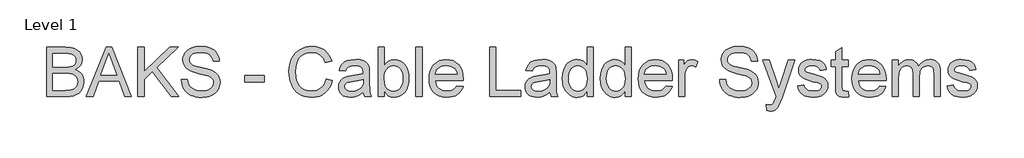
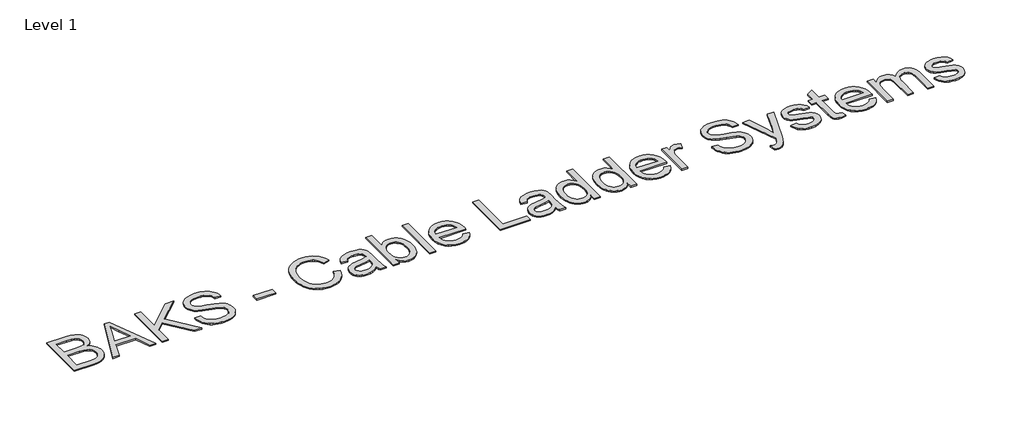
# One storey, part 103 of 106: 1 proxy.
"""IFC4 building model written with IfcOpenShell, lengths in millimetres."""

from ifc_helpers import new_model, si_unit, origin, origin_with_axes, place, context, project, spatial, polyline, outline, extrude, element, save

model = new_model("IFC4")

# Units and contexts
model_context = context("Model", 3, world=origin())
ifc_project = project(units=[si_unit("LENGTHUNIT", "METRE", prefix="MILLI")], contexts=[model_context])

# Site, building, storey
site = spatial("IfcSite", under=ifc_project)
building = spatial("IfcBuilding", under=site)
storey = spatial("IfcBuildingStorey", under=building, Name="Level 1", Elevation=0.0)

# Proxy
placement = place(None, origin())
element("IfcBuildingElementProxy", 1, Name="600mm Arial", ObjectType="600mm Arial", at=placement, inside=storey, context=model_context, shape_type="SweptSolid", body=[
    extrude(outline(polyline([(134935.20999, 74744.9841068), (134935.20999, 75347.7219677), (135165.2098134, 75347.7219677), (135228.4671225, 75343.2889896), (135277.8552803, 75329.9900555), (135297.9324402, 75319.9330815), (135315.7103376, 75307.4940715), (135331.1889726, 75292.6730256), (135344.368345, 75275.4699438), (135362.4129569, 75237.7988275), (135368.4278275, 75198.3618776), (135363.3694501, 75162.0703188), (135348.1943178, 75127.9492637), (135322.792066, 75098.0956398), (135287.0523302, 75074.6063744), (135309.792036, 75064.9126839), (135329.7450357, 75052.3127255), (135346.9113293, 75036.8064994), (135361.2909168, 75018.3940056), (135372.6538719, 74997.636264), (135380.7702685, 74975.0942947), (135385.6401064, 74950.7680978), (135387.2633857, 74924.6576732), (135382.8304076, 74882.6271553), (135369.5314735, 74843.6500579), (135349.6842399, 74810.5038901), (135325.6063633, 74785.966161), (135296.1206214, 74768.1974607), (135260.0497917, 74755.358379), (135216.216652, 74747.5776748), (135163.4439798, 74744.9841068), (134935.20999, 74744.9841068)]), holes=[polyline([(135010.5522226, 75102.8597117), (135148.1400888, 75102.8597117), (135196.2590538, 75104.4783925), (135228.4855166, 75109.3344348), (135256.6100951, 75120.4996533), (135276.8252107, 75137.21989), (135289.0204989, 75159.2376274), (135293.0855949, 75186.2953482), (135289.2964104, 75212.5621226), (135277.9288567, 75235.4443827), (135259.4979688, 75253.3050536), (135234.5187813, 75264.5070604), (135196.1854774, 75270.4115664), (135137.6922401, 75272.3797351), (135010.5522226, 75272.3797351), (135010.5522226, 75102.8597117)]), polyline([(135010.5522226, 74820.3263394), (135165.0626606, 74820.3263394), (135220.9807239, 74823.2693953), (135246.9347986, 74829.7993008), (135268.2903484, 74839.6769323), (135285.6543786, 74853.821995), (135299.6338944, 74873.1541939), (135308.8493384, 74896.8090062), (135311.9211531, 74923.9219092), (135308.3159095, 74955.412608), (135297.5001789, 74982.4887229), (135278.6094384, 75003.6603317), (135250.7791655, 75017.4375124), (135211.3606097, 75024.9974874), (135157.7050207, 75027.5174791), (135010.5522226, 75027.5174791), (135010.5522226, 74820.3263394)])]), origin_with_axes(), (0.0, 0.0, 1.0), 15.0),
    extrude(outline(polyline([(135420.8142236, 74744.9841068), (135661.4090485, 75347.7219677), (135725.5676684, 75347.7219677), (135966.0153405, 74744.9841068), (135886.4056767, 74744.9841068), (135817.5381672, 74933.3396883), (135569.1442441, 74933.3396883), (135500.2767346, 74744.9841068), (135420.8142236, 74744.9841068)]), holes=[polyline([(135596.8089701, 75008.6819209), (135790.020594, 75008.6819209), (135735.5740587, 75156.8647886), (135693.3412057, 75272.3797351), (135655.8172422, 75169.8142348), (135596.8089701, 75008.6819209)])]), origin_with_axes(), (0.0, 0.0, 1.0), 15.0),
    extrude(outline(polyline([(136046.507921, 74744.9841068), (136046.507921, 75347.7219677), (136121.8501536, 75347.7219677), (136121.8501536, 75052.6806075), (136430.8710296, 75347.7219677), (136536.232433, 75347.7219677), (136276.6548972, 75099.9166557), (136545.6502121, 74744.9841068), (136453.5325605, 74744.9841068), (136223.2384315, 75049.0017876), (136121.8501536, 74952.1752464), (136121.8501536, 74744.9841068), (136046.507921, 74744.9841068)])), origin_with_axes(), (0.0, 0.0, 1.0), 15.0),
    extrude(outline(polyline([(136573.9035493, 74952.1752464), (136649.2457819, 74952.1752464), (136657.8910088, 74910.3654577), (136673.5259936, 74876.7594374), (136697.9165699, 74850.0879928), (136732.8285712, 74829.0819309), (136775.5028827, 74815.4519029), (136823.1803893, 74810.9085603), (136865.1557249, 74814.348257), (136901.9071362, 74824.6673469), (136931.6871837, 74841.0013075), (136952.748428, 74862.485616), (136965.2748099, 74887.1521038), (136969.4502705, 74913.0326022), (136966.3232736, 74938.2509129), (136956.9422827, 74960.0479211), (136937.8859953, 74978.644356), (136905.733109, 74994.2609467), (136796.030698, 75023.0293187), (136724.0177975, 75042.067212), (136677.9405776, 75060.1854002), (136640.4350081, 75085.5324697), (136613.855534, 75116.2506163), (136598.0182141, 75151.6776524), (136592.7391075, 75191.1513905), (136594.3715838, 75213.5875937), (136599.2690129, 75235.2788358), (136607.4313947, 75256.2251169), (136618.8587291, 75276.426437), (136633.4222576, 75295.0596601), (136650.9932214, 75311.3016501), (136671.5716205, 75325.1524073), (136695.1574549, 75336.6119314), (136748.1692504, 75352.0077929), (136806.8464287, 75357.1397467), (136870.4164374, 75351.7686696), (136926.0401951, 75335.6554382), (136950.3755891, 75323.6532881), (136971.7311389, 75309.1311464), (136990.1068446, 75292.0890129), (137005.5027061, 75272.5268878), (137017.7991617, 75251.0149882), (137026.87665, 75228.123531), (137032.7351708, 75203.8525164), (137035.3747241, 75178.2019443), (136960.0324915, 75178.2019443), (136954.9925081, 75202.2430327), (136946.2001284, 75223.1571241), (136933.6553524, 75240.9442186), (136917.35818, 75255.6043161), (136897.0051086, 75267.0638402), (136872.2926356, 75275.2492146), (136843.2207609, 75280.1604392), (136809.7894846, 75281.7975141), (136775.2913505, 75280.1788333), (136745.8148057, 75275.322791), (136721.35985, 75267.2293871), (136701.9264836, 75255.8986217), (136687.1192333, 75242.2777908), (136676.542626, 75227.3141906), (136670.1966616, 75211.0078212), (136668.0813401, 75193.3586825), (136669.5804592, 75178.1743531), (136674.0778166, 75164.4063695), (136681.5734123, 75152.0547315), (136692.0672462, 75141.1194392), (136708.5851478, 75130.763561), (136734.5944048, 75120.2973182), (136815.0869854, 75099.0337389), (136898.1547399, 75078.8370174), (136948.4074204, 75061.2154698), (136991.3576433, 75033.8818376), (137007.9629169, 75017.8145914), (137021.3216319, 75000.1470586), (137031.590138, 74980.9712096), (137038.9247853, 74960.3790149), (137044.7925031, 74914.9455885), (137043.1048445, 74891.3781482), (137038.0418685, 74868.5004866), (137029.6035753, 74846.3126038), (137017.7899647, 74824.8144997), (137002.8079704, 74804.8385074), (136984.8645261, 74787.2169598), (136963.9596318, 74771.949857), (136940.0932873, 74759.037199), (136913.9598701, 74748.7686928), (136886.2537573, 74741.4340455), (136826.1234452, 74735.5663277), (136787.5832077, 74737.1482203), (136752.3079229, 74741.893898), (136720.2975908, 74749.8033609), (136691.5522114, 74760.876609), (136665.8970407, 74775.1320363), (136643.1573349, 74792.5880369), (136623.3330939, 74813.244611), (136606.4243177, 74837.1017584), (136592.8034868, 74863.3869269), (136582.8430818, 74891.3275644), (136576.5431026, 74920.923671), (136573.9035493, 74952.1752464)])), origin_with_axes(), (0.0, 0.0, 1.0), 15.0),
    extrude(outline(polyline([(137346.1614336, 74923.9219092), (137346.1614336, 74999.2641418), (137581.6059105, 74999.2641418), (137581.6059105, 74923.9219092), (137346.1614336, 74923.9219092)])), origin_with_axes(), (0.0, 0.0, 1.0), 15.0),
    extrude(outline(polyline([(138335.0282366, 74959.2385808), (138410.3704692, 74939.8144114), (138395.4620514, 74892.9600408), (138375.6056207, 74852.0193733), (138350.8011772, 74816.9924088), (138321.0487208, 74787.8791474), (138287.0196363, 74764.9922888), (138249.3853082, 74748.6445326), (138208.1457365, 74738.8358789), (138163.3009213, 74735.5663277), (138117.3570586, 74738.0403341), (138075.9105533, 74745.4623534), (138038.9614054, 74757.8323854), (138006.5096149, 74775.1504304), (137978.1091249, 74797.1589707), (137953.3138784, 74823.6004891), (137932.1238755, 74854.4749856), (137914.5391161, 74889.7824601), (137900.7297457, 74927.9962023), (137890.8659098, 74967.589502), (137884.9476082, 75008.5623593), (137882.974841, 75050.914774), (137885.2051256, 75096.3573974), (137891.8959793, 75138.8017826), (137903.0474023, 75178.2479295), (137918.6593945, 75214.6958382), (137938.382468, 75247.5431019), (137961.8671348, 75276.1873137), (137989.1133951, 75300.6284738), (138020.1212488, 75320.866582), (138053.8376336, 75336.7360916), (138089.2094875, 75348.0714556), (138126.2368103, 75354.8726739), (138164.9196021, 75357.1397467), (138208.0123793, 75354.2058878), (138247.5275041, 75345.4043111), (138283.4649765, 75330.7350165), (138315.8247965, 75310.1980042), (138344.0735352, 75284.3358999), (138367.6777637, 75253.6913297), (138386.637482, 75218.2642936), (138400.9526902, 75178.0547915), (138325.6104576, 75160.1021501), (138313.7462632, 75189.7304463), (138299.4908359, 75215.0453261), (138282.8441756, 75236.0467895), (138263.8062824, 75252.7348365), (138242.2667915, 75265.449758), (138218.1153386, 75274.5318447), (138191.3519234, 75279.9810968), (138161.9765461, 75281.7975141), (138128.1773878, 75279.7833602), (138097.2661031, 75273.7408984), (138069.2426922, 75263.6701288), (138044.1071548, 75249.5710513), (138022.1767894, 75232.0782625), (138003.7688941, 75211.8263586), (137988.8834688, 75188.8153398), (137977.5205137, 75163.0452061), (137963.1179336, 75107.899695), (137958.3170736, 75051.0619268), (137964.0008504, 74981.4586533), (137971.1055714, 74950.1886837), (137981.0521809, 74921.2731589), (137994.0016271, 74895.2868944), (138010.1148585, 74872.804706), (138029.391875, 74853.8265936), (138051.8326767, 74838.3525571), (138076.3474132, 74826.3458085), (138101.846234, 74817.7695595), (138128.3291391, 74812.6238101), (138155.7961286, 74810.9085603), (138188.5514217, 74813.244611), (138218.6855557, 74820.252763), (138246.1985304, 74831.9330163), (138271.0903459, 74848.285371), (138292.772391, 74869.2362506), (138310.6560544, 74894.7120788), (138324.7413363, 74924.7128555), (138335.0282366, 74959.2385808)])), origin_with_axes(), (0.0, 0.0, 1.0), 15.0),
    extrude(outline(polyline([(138787.0816323, 74801.4907812), (138751.0843791, 74770.6254818), (138714.0202681, 74750.4287603), (138675.0431707, 74739.2819358), (138633.3069583, 74735.5663277), (138599.7607189, 74737.8012108), (138570.3439548, 74744.5058602), (138545.0566662, 74755.6802758), (138523.898853, 74771.3244576), (138507.1924118, 74790.4451243), (138495.2592396, 74812.0489945), (138488.0993363, 74836.1360681), (138485.7127019, 74862.7063452), (138489.3179454, 74893.9395266), (138500.1336761, 74922.3032284), (138516.8171245, 74946.5834401), (138538.0255216, 74965.5661511), (138562.9495267, 74979.9135489), (138590.7797997, 74990.2878211), (138655.9684892, 75001.6185866), (138733.002979, 75013.5379632), (138786.6401739, 75027.5174791), (138787.0816323, 75044.292898), (138781.8944962, 75077.9173124), (138775.410576, 75090.3701179), (138766.3330878, 75099.9166557), (138750.6429207, 75109.4447994), (138731.531451, 75116.2506163), (138683.0446041, 75121.6952698), (138638.1630007, 75118.0716322), (138606.8194547, 75107.2007192), (138585.4455107, 75087.0959682), (138570.4727135, 75055.7708163), (138495.1304809, 75065.1885954), (138508.2086859, 75106.3913788), (138527.7248257, 75138.7649944), (138555.4999163, 75163.5234527), (138593.3549736, 75181.8807642), (138639.6529227, 75193.2483179), (138692.7566887, 75197.0375024), (138743.689951, 75193.6897763), (138784.0649999, 75183.6465978), (138814.507235, 75168.5450419), (138835.6420557, 75150.0221835), (138849.6583597, 75127.1215293), (138858.745045, 75098.8865861), (138862.4238649, 75032.9621326), (138862.4238649, 74939.2258002), (138866.2498377, 74808.3333863), (138871.9152204, 74775.9781649), (138881.2594231, 74744.9841068), (138805.9171905, 74744.9841068), (138793.850661, 74771.1773048), (138787.0816323, 74801.4907812)]), holes=[polyline([(138787.0816323, 74952.1752464), (138736.4610698, 74939.6304704), (138665.5334211, 74929.0722572), (138600.7126135, 74916.8585749), (138583.8452241, 74908.5076536), (138571.3556303, 74896.9929472), (138563.6301084, 74883.1973724), (138561.0549345, 74868.003846), (138566.6651349, 74845.5998324), (138583.4957362, 74827.2425209), (138611.1788563, 74814.9920504), (138649.3466133, 74810.9085603), (138689.8136328, 74815.4151147), (138725.5717627, 74828.9347781), (138754.5608639, 74848.8555881), (138774.7207973, 74872.5655827), (138783.6603297, 74896.9929472), (138786.6401739, 74930.8380907), (138787.0816323, 74952.1752464)])]), origin_with_axes(), (0.0, 0.0, 1.0), 15.0),
    extrude(outline(polyline([(139041.3616674, 74744.9841068), (138966.0194348, 74744.9841068), (138966.0194348, 75347.7219677), (139041.3616674, 75347.7219677), (139041.3616674, 75124.1968674), (139066.1385197, 75156.0646452), (139094.1159455, 75178.8273437), (139125.2939446, 75192.4849627), (139159.672517, 75197.0375024), (139198.4840675, 75192.9356182), (139235.1619024, 75180.6299655), (139267.6090944, 75160.8930964), (139293.7287161, 75134.4975633), (139314.2013491, 75101.7008834), (139329.7075752, 75062.7605742), (139339.4748422, 75019.2953165), (139342.7305978, 74972.923791), (139339.359879, 74919.4153548), (139329.2477227, 74872.3448535), (139312.3941288, 74831.7122871), (139288.7990973, 74797.5176557), (139260.4767822, 74770.4139497), (139229.4413374, 74751.0541597), (139195.6927629, 74739.4382857), (139159.2310586, 74735.5663277), (139123.721249, 74740.5603258), (139092.2397473, 74755.54232), (139064.7865534, 74780.5123104), (139041.3616674, 74815.470297), (139041.3616674, 74744.9841068)]), holes=[polyline([(139041.3616674, 74969.3921238), (139046.5120153, 74906.557879), (139052.9499502, 74882.755914), (139061.9630591, 74864.0307204), (139080.2192031, 74840.7897754), (139101.4367972, 74824.1891003), (139125.6158413, 74814.2286953), (139152.7563355, 74810.9085603), (139175.2891077, 74813.3549756), (139196.2399873, 74820.6942214), (139215.6089744, 74832.9262977), (139233.3960689, 74850.0512046), (139248.2676985, 74872.0229567), (139258.8902911, 74898.7955689), (139265.2638467, 74930.3690412), (139267.3883652, 74966.7433735), (139265.3512187, 75003.8074845), (139259.239779, 75035.6844594), (139249.0540463, 75062.3742981), (139234.7940204, 75083.8770007), (139217.6461209, 75100.4224935), (139198.7967672, 75112.2407026), (139178.2459592, 75119.331628), (139155.9936971, 75121.6952698), (139133.4609249, 75119.2488546), (139112.5100452, 75111.9096088), (139093.1410582, 75099.6775324), (139075.3539637, 75082.5526255), (139060.4823341, 75060.8016026), (139049.8597415, 75034.691178), (139043.4861859, 75004.2213517), (139041.3616674, 74969.3921238)])]), origin_with_axes(), (0.0, 0.0, 1.0), 15.0),
    extrude(outline(polyline([(139427.4906095, 74744.9841068), (139427.4906095, 75347.7219677), (139502.8328421, 75347.7219677), (139502.8328421, 74744.9841068), (139427.4906095, 74744.9841068)])), origin_with_axes(), (0.0, 0.0, 1.0), 15.0),
    extrude(outline(polyline([(139925.7499838, 74876.8330138), (139999.6206884, 74867.4152348), (139988.2945215, 74837.8283253), (139973.0044261, 74811.7546889), (139953.7504021, 74789.1943255), (139930.5324497, 74770.1472352), (139903.5896921, 74755.0180882), (139873.1612526, 74744.2115546), (139839.2471311, 74737.7276344), (139801.8473278, 74735.5663277), (139755.0987233, 74739.2957314), (139713.4452844, 74750.4839426), (139676.8870111, 74769.1309612), (139645.4239034, 74795.2367873), (139620.1228192, 74828.0748539), (139602.0506162, 74866.9185941), (139591.2072944, 74911.7680078), (139587.5928538, 74962.6230951), (139591.2440826, 75015.2026293), (139602.197769, 75061.5465636), (139620.453913, 75101.6548981), (139646.0125146, 75135.5276328), (139677.3928488, 75162.4382008), (139713.1141906, 75181.660035), (139753.1765398, 75193.1931356), (139797.5798967, 75197.0375024), (139840.5531122, 75193.2023326), (139879.4152465, 75181.6968232), (139914.1662995, 75162.5209742), (139944.8062711, 75135.6747856), (139969.8176483, 75101.8756273), (139987.6829177, 75061.8408692), (139998.4020793, 75015.5705113), (140001.9751332, 74963.0645535), (140001.5336748, 74942.7574674), (139662.9350864, 74942.7574674), (139667.2990866, 74912.6923113), (139675.9765031, 74886.3611575), (139688.9673361, 74863.764006), (139706.2715855, 74844.9008567), (139726.932758, 74830.029227), (139749.9943606, 74819.4066344), (139775.4563932, 74813.0330788), (139803.3188558, 74810.9085603), (139843.4179933, 74814.8448976), (139877.1895604, 74826.6539097), (139904.6335573, 74847.0713604), (139925.7499838, 74876.8330138)]), holes=[polyline([(139662.9350864, 75018.0997), (139926.6329006, 75018.0997), (139916.4425693, 75057.9045319), (139907.6777808, 75073.5579108), (139896.466577, 75086.3785983), (139875.9203675, 75101.8296421), (139852.5414667, 75112.8661019), (139826.3298746, 75119.4879779), (139797.2855911, 75121.6952698), (139770.7934889, 75119.9340348), (139746.4994816, 75114.6503296), (139724.4035693, 75105.8441544), (139704.5057519, 75093.515509), (139687.8085078, 75078.2346106), (139675.3143156, 75060.5716763), (139667.0231751, 75040.5267061), (139662.9350864, 75018.0997)])]), origin_with_axes(), (0.0, 0.0, 1.0), 15.0),
    extrude(outline(polyline([(140322.1796218, 74744.9841068), (140322.1796218, 75347.7219677), (140397.5218544, 75347.7219677), (140397.5218544, 74820.3263394), (140698.8907848, 74820.3263394), (140698.8907848, 74744.9841068), (140322.1796218, 74744.9841068)])), origin_with_axes(), (0.0, 0.0, 1.0), 15.0),
    extrude(outline(polyline([(141056.7663897, 74801.4907812), (141020.7691365, 74770.6254818), (140983.7050255, 74750.4287603), (140944.7279281, 74739.2819358), (140902.9917158, 74735.5663277), (140869.4454763, 74737.8012108), (140840.0287123, 74744.5058602), (140814.7414236, 74755.6802758), (140793.5836104, 74771.3244576), (140776.8771693, 74790.4451243), (140764.9439971, 74812.0489945), (140757.7840937, 74836.1360681), (140755.3974593, 74862.7063452), (140759.0027028, 74893.9395266), (140769.8184335, 74922.3032284), (140786.501882, 74946.5834401), (140807.710279, 74965.5661511), (140832.6342842, 74979.9135489), (140860.4645571, 74990.2878211), (140925.6532467, 75001.6185866), (141002.6877365, 75013.5379632), (141056.3249314, 75027.5174791), (141056.7663897, 75044.292898), (141051.5792536, 75077.9173124), (141045.0953334, 75090.3701179), (141036.0178452, 75099.9166557), (141020.3276781, 75109.4447994), (141001.2162085, 75116.2506163), (140952.7293615, 75121.6952698), (140907.8477581, 75118.0716322), (140876.5042121, 75107.2007192), (140855.1302682, 75087.0959682), (140840.157471, 75055.7708163), (140764.8152384, 75065.1885954), (140777.8934433, 75106.3913788), (140797.4095831, 75138.7649944), (140825.1846738, 75163.5234527), (140863.0397311, 75181.8807642), (140909.3376802, 75193.2483179), (140962.4414462, 75197.0375024), (141013.3747084, 75193.6897763), (141053.7497574, 75183.6465978), (141084.1919925, 75168.5450419), (141105.3268131, 75150.0221835), (141119.3431171, 75127.1215293), (141128.4298024, 75098.8865861), (141132.1086224, 75032.9621326), (141132.1086224, 74939.2258002), (141135.9345951, 74808.3333863), (141141.5999778, 74775.9781649), (141150.9441805, 74744.9841068), (141075.6019479, 74744.9841068), (141063.5354185, 74771.1773048), (141056.7663897, 74801.4907812)]), holes=[polyline([(141056.7663897, 74952.1752464), (141006.1458272, 74939.6304704), (140935.2181785, 74929.0722572), (140870.397371, 74916.8585749), (140853.5299815, 74908.5076536), (140841.0403878, 74896.9929472), (140833.3148659, 74883.1973724), (140830.7396919, 74868.003846), (140836.3498923, 74845.5998324), (140853.1804936, 74827.2425209), (140880.8636138, 74814.9920504), (140919.0313708, 74810.9085603), (140959.4983902, 74815.4151147), (140995.2565202, 74828.9347781), (141024.2456214, 74848.8555881), (141044.4055547, 74872.5655827), (141053.3450872, 74896.9929472), (141056.3249314, 74930.8380907), (141056.7663897, 74952.1752464)])]), origin_with_axes(), (0.0, 0.0, 1.0), 15.0),
    extrude(outline(polyline([(141508.8197854, 74744.9841068), (141508.8197854, 74816.0589082), (141486.2778162, 74780.8434042), (141458.9717751, 74755.6894728), (141426.9016621, 74740.597114), (141390.0674774, 74735.5663277), (141365.1986545, 74737.3873436), (141341.3599012, 74742.8503912), (141318.5512175, 74751.9554706), (141296.7726034, 74764.7025817), (141276.7046406, 74780.710047), (141259.0279107, 74799.5961889), (141243.7424138, 74821.3610075), (141230.8481499, 74846.0045026), (141220.6118333, 74873.0576249), (141213.3001787, 74902.0513246), (141207.450855, 74965.8604567), (141212.8403262, 75028.8786424), (141229.0087399, 75085.7899871), (141241.1304516, 75111.1462536), (141255.9377019, 75133.3571291), (141273.4304908, 75152.4226135), (141293.6088182, 75168.3427068), (141315.7599129, 75180.8966799), (141339.1710033, 75189.8638035), (141363.8420896, 75195.2440777), (141389.7731718, 75197.0375024), (141426.6349477, 75191.9055486), (141459.2292925, 75176.5096871), (141486.8572303, 75152.9100571), (141508.8197854, 75123.1667978), (141508.8197854, 75347.7219677), (141584.162018, 75347.7219677), (141584.162018, 74744.9841068), (141508.8197854, 74744.9841068)]), holes=[polyline([(141282.7930876, 74966.1547623), (141284.9176061, 74929.6194816), (141291.2911617, 74898.0046227), (141301.9137543, 74871.3101854), (141316.7853839, 74849.5361698), (141334.5448873, 74832.6365906), (141353.8311009, 74820.5654627), (141374.6440247, 74813.3227859), (141396.9836589, 74810.9085603), (141419.4290591, 74813.2124213), (141440.1178228, 74820.1240043), (141459.04995, 74831.6433093), (141476.2254406, 74847.7703362), (141490.4854665, 74868.6338439), (141500.6711992, 74894.3625909), (141506.7826389, 74924.9565773), (141508.8197854, 74960.4158031), (141506.7458507, 74999.291733), (141500.5240464, 75032.6310388), (141490.1543727, 75060.4337206), (141475.6368295, 75082.6997783), (141458.0842598, 75099.7603059), (141438.6095066, 75111.946397), (141417.2125701, 75119.2580516), (141393.8934501, 75121.6952698), (141371.1123576, 75119.3546206), (141350.2994337, 75112.332673), (141331.4546785, 75100.6294271), (141314.578092, 75084.2448827), (141300.6721525, 75062.820355), (141290.7393387, 75035.997159), (141284.7796504, 75003.7752948), (141282.7930876, 74966.1547623)])]), origin_with_axes(), (0.0, 0.0, 1.0), 15.0),
    extrude(outline(polyline([(141970.2909602, 74744.9841068), (141970.2909602, 74816.0589082), (141947.7489909, 74780.8434042), (141920.4429498, 74755.6894728), (141888.3728369, 74740.597114), (141851.5386521, 74735.5663277), (141826.6698293, 74737.3873436), (141802.831076, 74742.8503912), (141780.0223923, 74751.9554706), (141758.2437781, 74764.7025817), (141738.1758153, 74780.710047), (141720.4990854, 74799.5961889), (141705.2135885, 74821.3610075), (141692.3193246, 74846.0045026), (141682.0830081, 74873.0576249), (141674.7713534, 74902.0513246), (141668.9220297, 74965.8604567), (141674.3115009, 75028.8786424), (141690.4799146, 75085.7899871), (141702.6016264, 75111.1462536), (141717.4088767, 75133.3571291), (141734.9016656, 75152.4226135), (141755.079993, 75168.3427068), (141777.2310876, 75180.8966799), (141800.6421781, 75189.8638035), (141825.3132644, 75195.2440777), (141851.2443465, 75197.0375024), (141888.1061224, 75191.9055486), (141920.7004672, 75176.5096871), (141948.3284051, 75152.9100571), (141970.2909602, 75123.1667978), (141970.2909602, 75347.7219677), (142045.6331928, 75347.7219677), (142045.6331928, 74744.9841068), (141970.2909602, 74744.9841068)]), holes=[polyline([(141744.2642623, 74966.1547623), (141746.3887809, 74929.6194816), (141752.7623364, 74898.0046227), (141763.384929, 74871.3101854), (141778.2565587, 74849.5361698), (141796.016062, 74832.6365906), (141815.3022756, 74820.5654627), (141836.1151995, 74813.3227859), (141858.4548336, 74810.9085603), (141880.9002339, 74813.2124213), (141901.5889976, 74820.1240043), (141920.5211247, 74831.6433093), (141937.6966154, 74847.7703362), (141951.9566412, 74868.6338439), (141962.142374, 74894.3625909), (141968.2538136, 74924.9565773), (141970.2909602, 74960.4158031), (141968.2170254, 74999.291733), (141961.9952212, 75032.6310388), (141951.6255474, 75060.4337206), (141937.1080042, 75082.6997783), (141919.5554345, 75099.7603059), (141900.0806814, 75111.946397), (141878.6837448, 75119.2580516), (141855.3646249, 75121.6952698), (141832.5835323, 75119.3546206), (141811.7706084, 75112.332673), (141792.9258532, 75100.6294271), (141776.0492667, 75084.2448827), (141762.1433273, 75062.820355), (141752.2105134, 75035.997159), (141746.2508251, 75003.7752948), (141744.2642623, 74966.1547623)])]), origin_with_axes(), (0.0, 0.0, 1.0), 15.0),
    extrude(outline(polyline([(142468.5503344, 74876.8330138), (142542.4210391, 74867.4152348), (142531.0948721, 74837.8283253), (142515.8047767, 74811.7546889), (142496.5507528, 74789.1943255), (142473.3328004, 74770.1472352), (142446.3900428, 74755.0180882), (142415.9616032, 74744.2115546), (142382.0474818, 74737.7276344), (142344.6476785, 74735.5663277), (142297.8990739, 74739.2957314), (142256.245635, 74750.4839426), (142219.6873617, 74769.1309612), (142188.2242541, 74795.2367873), (142162.9231699, 74828.0748539), (142144.8509669, 74866.9185941), (142134.0076451, 74911.7680078), (142130.3932045, 74962.6230951), (142134.0444333, 75015.2026293), (142144.9981197, 75061.5465636), (142163.2542637, 75101.6548981), (142188.8128653, 75135.5276328), (142220.1931995, 75162.4382008), (142255.9145412, 75181.660035), (142295.9768905, 75193.1931356), (142340.3802473, 75197.0375024), (142383.3534629, 75193.2023326), (142422.2155971, 75181.6968232), (142456.9666501, 75162.5209742), (142487.6066218, 75135.6747856), (142512.6179989, 75101.8756273), (142530.4832683, 75061.8408692), (142541.20243, 75015.5705113), (142544.7754838, 74963.0645535), (142544.3340254, 74942.7574674), (142205.7354371, 74942.7574674), (142210.0994372, 74912.6923113), (142218.7768538, 74886.3611575), (142231.7676868, 74863.764006), (142249.0719361, 74844.9008567), (142269.7331087, 74830.029227), (142292.7947112, 74819.4066344), (142318.2567438, 74813.0330788), (142346.1192064, 74810.9085603), (142386.2183439, 74814.8448976), (142419.9899111, 74826.6539097), (142447.4339079, 74847.0713604), (142468.5503344, 74876.8330138)]), holes=[polyline([(142205.7354371, 75018.0997), (142469.4332512, 75018.0997), (142459.24292, 75057.9045319), (142450.4781314, 75073.5579108), (142439.2669276, 75086.3785983), (142418.7207182, 75101.8296421), (142395.3418174, 75112.8661019), (142369.1302252, 75119.4879779), (142340.0859417, 75121.6952698), (142313.5938395, 75119.9340348), (142289.2998323, 75114.6503296), (142267.20392, 75105.8441544), (142247.3061025, 75093.515509), (142230.6088585, 75078.2346106), (142218.1146662, 75060.5716763), (142209.8235258, 75040.5267061), (142205.7354371, 75018.0997)])]), origin_with_axes(), (0.0, 0.0, 1.0), 15.0),
    extrude(outline(polyline([(142620.1177164, 74744.9841068), (142620.1177164, 75187.6197234), (142686.04217, 75187.6197234), (142686.04217, 75122.1367282), (142710.3959581, 75160.1021501), (142732.8367598, 75182.4693754), (142755.3511379, 75193.3954707), (142779.9256552, 75197.0375024), (142817.4496187, 75191.2249669), (142855.5621934, 75173.7873603), (142830.3990649, 75106.244226), (142803.9115612, 75117.8325089), (142777.4240576, 75121.6952698), (142754.9280736, 75117.9796617), (142734.8233225, 75106.8328372), (142718.5813325, 75089.1009251), (142707.6736313, 75065.6300538), (142698.5133696, 75023.5443535), (142695.4599491, 74977.6326805), (142695.4599491, 74744.9841068), (142620.1177164, 74744.9841068)])), origin_with_axes(), (0.0, 0.0, 1.0), 15.0),
    extrude(outline(polyline([(143119.2600075, 74952.1752464), (143194.6022401, 74952.1752464), (143203.247467, 74910.3654577), (143218.8824518, 74876.7594374), (143243.2730281, 74850.0879928), (143278.1850294, 74829.0819309), (143320.8593409, 74815.4519029), (143368.5368474, 74810.9085603), (143410.5121831, 74814.348257), (143447.2635944, 74824.6673469), (143477.0436419, 74841.0013075), (143498.1048861, 74862.485616), (143510.6312681, 74887.1521038), (143514.8067287, 74913.0326022), (143511.6797318, 74938.2509129), (143502.2987409, 74960.0479211), (143483.2424535, 74978.644356), (143451.0895672, 74994.2609467), (143341.3871562, 75023.0293187), (143269.3742556, 75042.067212), (143223.2970357, 75060.1854002), (143185.7914663, 75085.5324697), (143159.2119922, 75116.2506163), (143143.3746723, 75151.6776524), (143138.0955657, 75191.1513905), (143139.728042, 75213.5875937), (143144.6254711, 75235.2788358), (143152.7878528, 75256.2251169), (143164.2151873, 75276.426437), (143178.7787158, 75295.0596601), (143196.3496796, 75311.3016501), (143216.9280787, 75325.1524073), (143240.5139131, 75336.6119314), (143293.5257086, 75352.0077929), (143352.2028869, 75357.1397467), (143415.7728956, 75351.7686696), (143471.3966533, 75335.6554382), (143495.7320473, 75323.6532881), (143517.0875971, 75309.1311464), (143535.4633027, 75292.0890129), (143550.8591642, 75272.5268878), (143563.1556199, 75251.0149882), (143572.2331082, 75228.123531), (143578.0916289, 75203.8525164), (143580.7311823, 75178.2019443), (143505.3889496, 75178.2019443), (143500.3489663, 75202.2430327), (143491.5565866, 75223.1571241), (143479.0118106, 75240.9442186), (143462.7146382, 75255.6043161), (143442.3615668, 75267.0638402), (143417.6490938, 75275.2492146), (143388.5772191, 75280.1604392), (143355.1459428, 75281.7975141), (143320.6478087, 75280.1788333), (143291.1712639, 75275.322791), (143266.7163082, 75267.2293871), (143247.2829418, 75255.8986217), (143232.4756915, 75242.2777908), (143221.8990842, 75227.3141906), (143215.5531197, 75211.0078212), (143213.4377983, 75193.3586825), (143214.9369174, 75178.1743531), (143219.4342748, 75164.4063695), (143226.9298704, 75152.0547315), (143237.4237044, 75141.1194392), (143253.9416059, 75130.763561), (143279.950863, 75120.2973182), (143360.4434435, 75099.0337389), (143443.5111981, 75078.8370174), (143493.7638786, 75061.2154698), (143536.7141015, 75033.8818376), (143553.3193751, 75017.8145914), (143566.67809, 75000.1470586), (143576.9465962, 74980.9712096), (143584.2812435, 74960.3790149), (143590.1489613, 74914.9455885), (143588.4613027, 74891.3781482), (143583.3983267, 74868.5004866), (143574.9600335, 74846.3126038), (143563.1464229, 74824.8144997), (143548.1644286, 74804.8385074), (143530.2209843, 74787.2169598), (143509.3160899, 74771.949857), (143485.4497455, 74759.037199), (143459.3163283, 74748.7686928), (143431.6102155, 74741.4340455), (143371.4799034, 74735.5663277), (143332.9396659, 74737.1482203), (143297.6643811, 74741.893898), (143265.654049, 74749.8033609), (143236.9086696, 74760.876609), (143211.2534989, 74775.1320363), (143188.5137931, 74792.5880369), (143168.6895521, 74813.244611), (143151.7807759, 74837.1017584), (143138.159945, 74863.3869269), (143128.19954, 74891.3275644), (143121.8995608, 74920.923671), (143119.2600075, 74952.1752464)])), origin_with_axes(), (0.0, 0.0, 1.0), 15.0),
    extrude(outline(polyline([(143693.7445312, 74575.4640834), (143684.3267521, 74648.0104128), (143722.5864796, 74641.3885369), (143742.7096247, 74643.4670702), (143758.3446095, 74649.70267), (143770.5215036, 74659.653878), (143780.2703764, 74672.8792357), (143800.8717682, 74728.3558406), (143806.7578801, 74746.6027875), (143646.6556358, 75187.6197234), (143725.9709939, 75187.6197234), (143811.0253112, 74941.7273978), (143840.6030236, 74843.4293287), (143870.1807361, 74930.3966323), (143957.4423453, 75187.6197234), (144036.1690923, 75187.6197234), (143882.1001127, 74734.3891053), (143842.0745516, 74636.0910362), (143821.5835245, 74604.710702), (143798.3701706, 74582.9688761), (143771.4412086, 74570.2769473), (143739.803357, 74566.0463043), (143717.9143783, 74568.4007491), (143693.7445312, 74575.4640834)])), origin_with_axes(), (0.0, 0.0, 1.0), 15.0),
    extrude(outline(polyline([(144070.4556942, 74876.8330138), (144145.7979268, 74886.2507929), (144150.3504665, 74869.0707037), (144157.6805153, 74854.0243301), (144167.7880731, 74841.1116721), (144180.67314, 74830.3327296), (144196.3725041, 74821.8346556), (144214.9229537, 74815.7646026), (144260.5771093, 74810.9085603), (144305.6794419, 74815.3599324), (144323.209019, 74820.9241476), (144337.3908699, 74828.7140489), (144356.1528517, 74848.0646418), (144360.8433471, 74858.8987666), (144362.4068456, 74870.5054435), (144360.8341501, 74880.6773807), (144356.1160635, 74889.7088837), (144337.2437171, 74904.3505871), (144309.0271681, 74913.915519), (144259.6941926, 74925.8348956), (144190.9370477, 74945.7189174), (144146.2393852, 74962.6966715), (144117.5261955, 74981.21953), (144096.7224687, 75005.7388649), (144084.0857222, 75034.691178), (144079.8734733, 75066.5129705), (144083.2579877, 75095.7044069), (144093.4115307, 75122.651763), (144109.4143975, 75146.2881812), (144130.346883, 75165.5468037), (144151.1506099, 75177.6685154), (144178.2451188, 75187.8404526), (144209.5702707, 75194.73824), (144243.0659264, 75197.0375024), (144292.1045963, 75193.3402884), (144334.7421196, 75182.2486462), (144369.0287215, 75164.8478279), (144393.0146276, 75142.2230852), (144408.9071298, 75112.700555), (144418.9135201, 75074.6063744), (144343.5712875, 75065.1885954), (144334.0615379, 75088.89859), (144315.2443738, 75106.7592608), (144286.9358543, 75117.9612676), (144248.9520383, 75121.6952698), (144205.6891157, 75118.1268145), (144176.8471672, 75107.4214484), (144160.6235713, 75091.9704046), (144155.2157059, 75074.164916), (144157.4597861, 75062.5766332), (144164.1920266, 75052.2391491), (144175.7067331, 75043.0053111), (144192.298211, 75035.610883), (144257.192595, 75019.571228), (144367.7779227, 74984.1074036), (144396.9877532, 74967.1480437), (144419.1342493, 74943.9346898), (144433.095371, 74914.3937655), (144437.7490782, 74878.4516946), (144432.2860306, 74841.2956131), (144415.8968877, 74806.3468236), (144389.207049, 74776.3460469), (144352.8419137, 74754.0340038), (144308.9168035, 74740.1832467), (144259.5470398, 74735.5663277), (144218.9972468, 74737.7920138), (144183.5794078, 74744.469072), (144153.2935225, 74755.5975023), (144128.1395911, 74771.1773048), (144107.5933816, 74791.1349031), (144091.1306624, 74815.3967206), (144078.7514332, 74843.9627576), (144070.4556942, 74876.8330138)])), origin_with_axes(), (0.0, 0.0, 1.0), 15.0),
    extrude(outline(polyline([(144682.6113342, 74807.8183515), (144692.0291133, 74742.7768148), (144635.6695916, 74735.5663277), (144599.5067915, 74738.6933246), (144572.5410413, 74748.0743155), (144553.4847539, 74762.5320779), (144541.0503425, 74780.8893895), (144534.2077374, 74812.4168765), (144531.926869, 74866.3851652), (144531.926869, 75112.2774907), (144475.4201945, 75112.2774907), (144475.4201945, 75187.6197234), (144531.926869, 75187.6197234), (144531.926869, 75295.1884188), (144607.2691016, 75339.481411), (144607.2691016, 75187.6197234), (144682.6113342, 75187.6197234), (144682.6113342, 75112.2774907), (144607.2691016, 75112.2774907), (144607.2691016, 74868.5924571), (144611.2422271, 74829.7441185), (144624.118097, 74815.9853318), (144634.9890099, 74812.1777532), (144649.7962602, 74810.9085603), (144682.6113342, 74807.8183515)])), origin_with_axes(), (0.0, 0.0, 1.0), 15.0),
    extrude(outline(polyline([(145067.8573596, 74876.8330138), (145141.7280642, 74867.4152348), (145130.4018973, 74837.8283253), (145115.1118018, 74811.7546889), (145095.8577779, 74789.1943255), (145072.6398255, 74770.1472352), (145045.6970679, 74755.0180882), (145015.2686283, 74744.2115546), (144981.3545069, 74737.7276344), (144943.9547036, 74735.5663277), (144897.206099, 74739.2957314), (144855.5526601, 74750.4839426), (144818.9943869, 74769.1309612), (144787.5312792, 74795.2367873), (144762.230195, 74828.0748539), (144744.157992, 74866.9185941), (144733.3146702, 74911.7680078), (144729.7002296, 74962.6230951), (144733.3514584, 75015.2026293), (144744.3051448, 75061.5465636), (144762.5612888, 75101.6548981), (144788.1198904, 75135.5276328), (144819.5002246, 75162.4382008), (144855.2215663, 75181.660035), (144895.2839156, 75193.1931356), (144939.6872724, 75197.0375024), (144982.660488, 75193.2023326), (145021.5226223, 75181.6968232), (145056.2736752, 75162.5209742), (145086.9136469, 75135.6747856), (145111.9250241, 75101.8756273), (145129.7902934, 75061.8408692), (145140.5094551, 75015.5705113), (145144.082509, 74963.0645535), (145143.6410506, 74942.7574674), (144805.0424622, 74942.7574674), (144809.4064624, 74912.6923113), (144818.0838789, 74886.3611575), (144831.0747119, 74863.764006), (144848.3789612, 74844.9008567), (144869.0401338, 74830.029227), (144892.1017364, 74819.4066344), (144917.563769, 74813.0330788), (144945.4262316, 74810.9085603), (144985.525369, 74814.8448976), (145019.2969362, 74826.6539097), (145046.740933, 74847.0713604), (145067.8573596, 74876.8330138)]), holes=[polyline([(144805.0424622, 75018.0997), (145068.7402763, 75018.0997), (145058.5499451, 75057.9045319), (145049.7851565, 75073.5579108), (145038.5739527, 75086.3785983), (145018.0277433, 75101.8296421), (144994.6488425, 75112.8661019), (144968.4372504, 75119.4879779), (144939.3929668, 75121.6952698), (144912.9008647, 75119.9340348), (144888.6068574, 75114.6503296), (144866.5109451, 75105.8441544), (144846.6131277, 75093.515509), (144829.9158836, 75078.2346106), (144817.4216913, 75060.5716763), (144809.1305509, 75040.5267061), (144805.0424622, 75018.0997)])]), origin_with_axes(), (0.0, 0.0, 1.0), 15.0),
    extrude(outline(polyline([(145219.4247416, 74744.9841068), (145219.4247416, 75187.6197234), (145294.7669742, 75187.6197234), (145294.7669742, 75114.7790883), (145317.4285051, 75148.2379558), (145346.5647591, 75174.4495479), (145381.1824548, 75191.3905138), (145420.2883109, 75197.0375024), (145462.1900702, 75191.2801492), (145480.0231499, 75184.0834577), (145495.7776963, 75174.0080895), (145520.8672484, 75146.3617576), (145537.2747854, 75109.4815876), (145564.7371763, 75147.7873003), (145596.0623282, 75175.1485237), (145631.2502411, 75191.5652578), (145670.3009149, 75197.0375024), (145700.4626399, 75194.7612326), (145726.936348, 75187.9324231), (145749.7220391, 75176.5510738), (145768.8197132, 75160.6171849), (145783.9166705, 75139.9468153), (145794.7002115, 75114.356024), (145801.1703361, 75083.844811), (145803.3270443, 75048.4131764), (145803.3270443, 74744.9841068), (145727.9848117, 74744.9841068), (145727.9848117, 75016.0395608), (145726.2373722, 75053.6187066), (145720.9950538, 75078.947382), (145711.1726045, 75096.2930181), (145695.6847725, 75109.923046), (145675.7639625, 75118.7522139), (145652.6425791, 75121.6952698), (145631.2916278, 75119.8098746), (145611.8260717, 75114.1536889), (145594.2459109, 75104.7267128), (145578.5511453, 75091.5289462), (145565.6430858, 75074.1741131), (145556.4230433, 75052.2759373), (145550.8910177, 75025.8344189), (145549.0470092, 74994.8495579), (145549.0470092, 74744.9841068), (145473.7047766, 74744.9841068), (145473.7047766, 75024.4272703), (145469.345375, 75067.0280053), (145463.8961229, 75083.748242), (145456.2671701, 75097.4150581), (145446.1550137, 75108.0376508), (145433.2561513, 75115.6252169), (145417.5705827, 75120.1777566), (145399.098308, 75121.6952698), (145370.0724186, 75117.6485679), (145343.3273975, 75105.508462), (145321.2544778, 75085.5692579), (145306.2448924, 75058.1252611), (145297.6364537, 75020.0494746), (145294.7669742, 74968.2149014), (145294.7669742, 74744.9841068), (145219.4247416, 74744.9841068)])), origin_with_axes(), (0.0, 0.0, 1.0), 15.0),
    extrude(outline(polyline([(145888.087056, 74876.8330138), (145963.4292886, 74886.2507929), (145967.9818283, 74869.0707037), (145975.3118771, 74854.0243301), (145985.4194349, 74841.1116721), (145998.3045018, 74830.3327296), (146014.0038659, 74821.8346556), (146032.5543155, 74815.7646026), (146078.2084711, 74810.9085603), (146123.3108037, 74815.3599324), (146140.8403808, 74820.9241476), (146155.0222317, 74828.7140489), (146173.7842135, 74848.0646418), (146178.4747089, 74858.8987666), (146180.0382074, 74870.5054435), (146178.4655118, 74880.6773807), (146173.7474253, 74889.7088837), (146154.8750789, 74904.3505871), (146126.6585299, 74913.915519), (146077.3255543, 74925.8348956), (146008.5684094, 74945.7189174), (145963.870747, 74962.6966715), (145935.1575573, 74981.21953), (145914.3538305, 75005.7388649), (145901.7170839, 75034.691178), (145897.5048351, 75066.5129705), (145900.8893494, 75095.7044069), (145911.0428925, 75122.651763), (145927.0457593, 75146.2881812), (145947.9782448, 75165.5468037), (145968.7819716, 75177.6685154), (145995.8764806, 75187.8404526), (146027.2016325, 75194.73824), (146060.6972881, 75197.0375024), (146109.7359581, 75193.3402884), (146152.3734813, 75182.2486462), (146186.6600833, 75164.8478279), (146210.6459894, 75142.2230852), (146226.5384916, 75112.700555), (146236.5448818, 75074.6063744), (146161.2026492, 75065.1885954), (146151.6928996, 75088.89859), (146132.8757356, 75106.7592608), (146104.5672161, 75117.9612676), (146066.5834001, 75121.6952698), (146023.3204774, 75118.1268145), (145994.478529, 75107.4214484), (145978.254933, 75091.9704046), (145972.8470677, 75074.164916), (145975.0911479, 75062.5766332), (145981.8233884, 75052.2391491), (145993.3380948, 75043.0053111), (146009.9295728, 75035.610883), (146074.8239568, 75019.571228), (146185.4092845, 74984.1074036), (146214.6191149, 74967.1480437), (146236.765611, 74943.9346898), (146250.7267327, 74914.3937655), (146255.38044, 74878.4516946), (146249.9173924, 74841.2956131), (146233.5282495, 74806.3468236), (146206.8384107, 74776.3460469), (146170.4732755, 74754.0340038), (146126.5481653, 74740.1832467), (146077.1784015, 74735.5663277), (146036.6286086, 74737.7920138), (146001.2107695, 74744.469072), (145970.9248843, 74755.5975023), (145945.7709528, 74771.1773048), (145925.2247434, 74791.1349031), (145908.7620241, 74815.3967206), (145896.382795, 74843.9627576), (145888.087056, 74876.8330138)])), origin_with_axes(), (0.0, 0.0, 1.0), 15.0),
])

save(model, "model.ifc")
